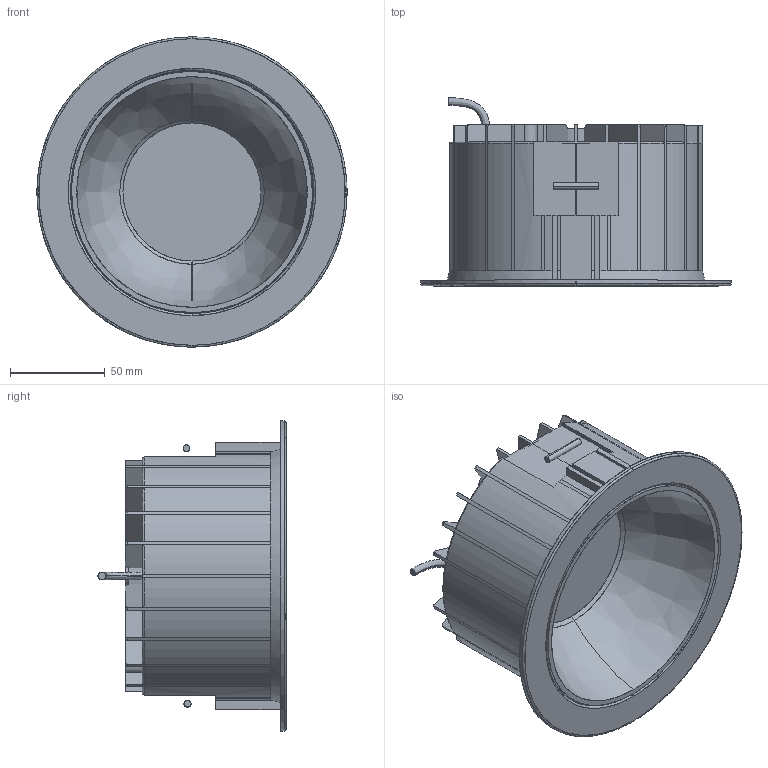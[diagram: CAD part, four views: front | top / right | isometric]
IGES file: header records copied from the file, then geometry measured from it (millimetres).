
Start section: SolidWorks IGES file using analytic representation for surfaces
Global section: file name: F:\GABRYSIA\MODELE 3D\OPRAWY\CL-KEA-LED-8771-WWW\CL-KEA-LED-8771.IGS; native system: SolidWorks 2017; preprocessor: SolidWorks 2017; author: Togambi; date: 200907.103850; units: millimetre
Bounding box: 164 x 99.4 x 164 mm (x, y, z)
Surface area: 171417.9 mm2 (no closed solid volume)
Topology: 0 solids, 0 shells, 465 faces, 4974 edges, 4974 vertices
Faces by surface type: bspline 317, revolution 148
